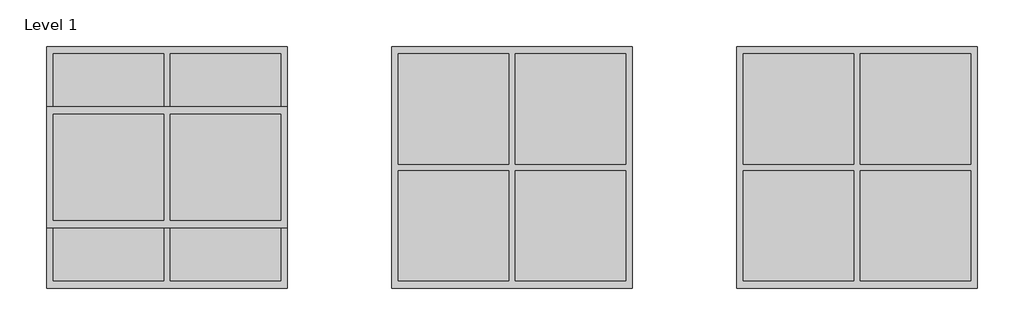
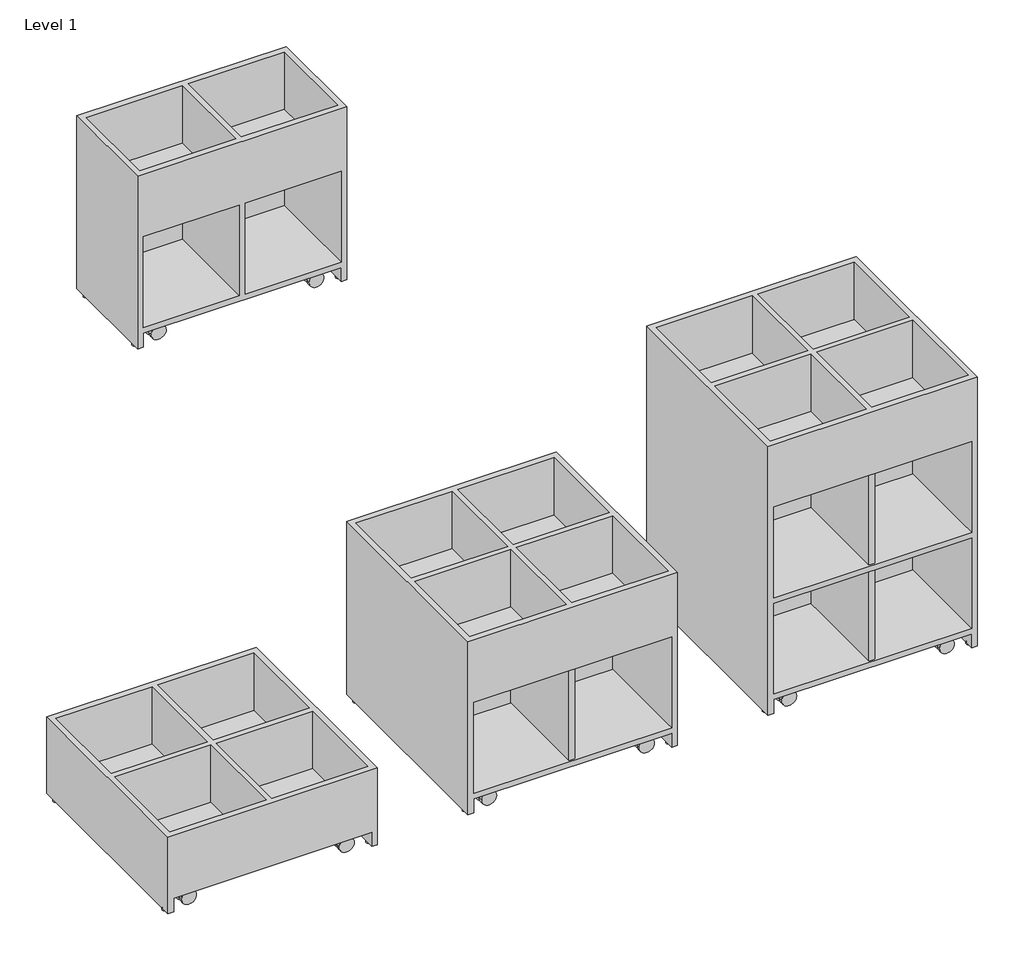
# One storey: 4 furniture elements.
"""IFC4 building model written with IfcOpenShell, lengths in millimetres."""

from ifc_helpers import new_model, si_unit, origin, place, context, project, spatial, transform, mapped, element, save
from components import furniture_43385f6e, furniture_719346cd, furniture_2cdb3e4e, furniture_69c32b00

model = new_model("IFC4")

# Units and contexts
model_context = context("Model", 3, world=origin())
ifc_project = project(units=[si_unit("LENGTHUNIT", "METRE", prefix="MILLI")], contexts=[model_context])

# Site, building, storey
site = spatial("IfcSite", under=ifc_project)
building = spatial("IfcBuilding", under=site)
storey = spatial("IfcBuildingStorey", under=building, Name="Level 1", Elevation=0.0)

# Furniture
placement = place(None, origin())
furniture_shape = furniture_43385f6e(model_context)
element("IfcFurniture", 1, ObjectType="BK Library - Ella - Double Small : BK Library - Ella - Double Small", at=placement, inside=storey, context=model_context, shape_type="MappedRepresentation", body=[
    mapped(furniture_shape, transform((-3300.8075665, 2197.9079464, -1679.2974159), x_axis=(0.0, 1.0, 0.0), y_axis=(-1.0, 0.0, 0.0), z_axis=(0.0, 0.0, 1.0))),
])
furniture_2_shape = furniture_719346cd(model_context)
element("IfcFurniture", 2, ObjectType="BK Library - Ella - Double Medium : BK Library - Ella - Double Medium", at=placement, inside=storey, context=model_context, shape_type="MappedRepresentation", body=[
    mapped(furniture_2_shape, transform((-2300.8075665, 2197.9079464, -1679.2974159), x_axis=(0.0, 1.0, 0.0), y_axis=(-1.0, 0.0, 0.0), z_axis=(0.0, 0.0, 1.0))),
])
furniture_3_shape = furniture_2cdb3e4e(model_context)
element("IfcFurniture", 3, ObjectType="BK Library - Ella - Double Large : BK Library - Ella - Double Large", at=placement, inside=storey, context=model_context, shape_type="MappedRepresentation", body=[
    mapped(furniture_3_shape, transform((-1300.8075665, 2197.9079464, -1679.2974159), x_axis=(0.0, 1.0, 0.0), y_axis=(-1.0, 0.0, 0.0), z_axis=(0.0, 0.0, 1.0))),
])
furniture_4_shape = furniture_69c32b00(model_context)
element("IfcFurniture", 4, ObjectType="BK Library - Ella - Bookbrowser : BK Library - Ella - Bookbrowser", at=placement, inside=storey, context=model_context, shape_type="MappedRepresentation", body=[
    mapped(furniture_4_shape, transform((-3300.8075665, 2197.9079464, 205.7025841), x_axis=(0.0, 1.0, 0.0), y_axis=(-1.0, 0.0, 0.0), z_axis=(0.0, 0.0, 1.0))),
])

save(model, "model.ifc")
